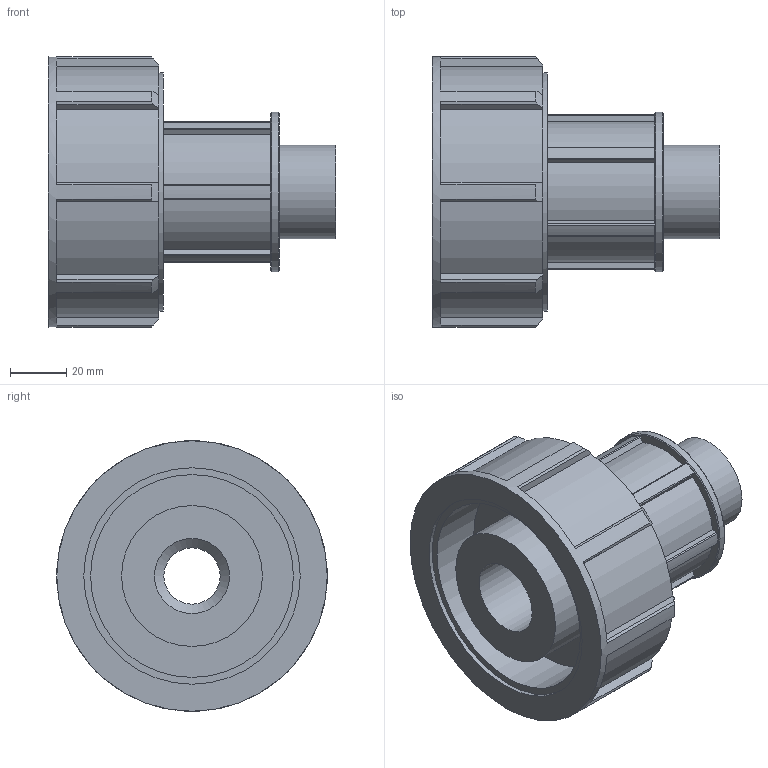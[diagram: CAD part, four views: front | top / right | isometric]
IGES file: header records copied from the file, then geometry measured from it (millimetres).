
Global section: file name: 072500050010_182500050010_0725060500100A.ipt; native system: Autodesk Inventor 2015; preprocessor: unknown; author: KIM; date: 20170608.042150; units: millimetre
Bounding box: 102 x 96 x 96 mm (x, y, z)
Volume: 256991.8 mm3; surface area: 59478 mm2
Topology: 1 solids, 1 shells, 115 faces, 322 edges, 217 vertices
Faces by surface type: plane 74, cylinder 25, cone 10, revolution 6
Full cylindrical faces by diameter (mm): 33.249 x1, 50 x1, 56.523 x1, 84.48 x1, 96 x1
